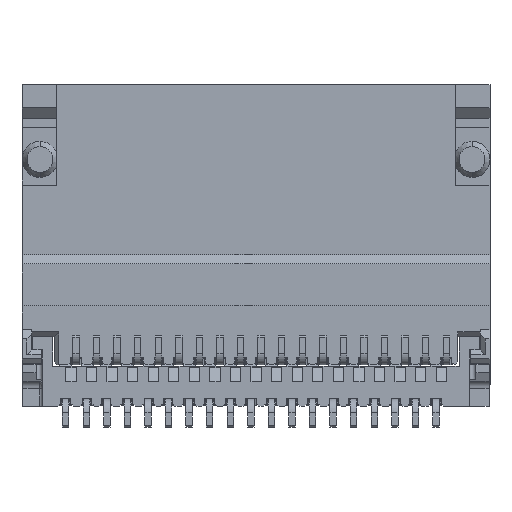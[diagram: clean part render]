
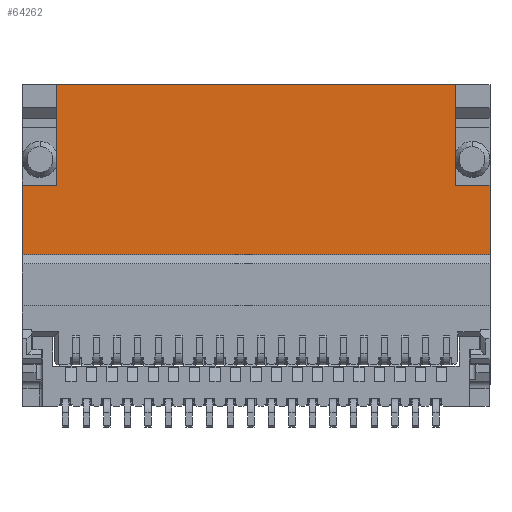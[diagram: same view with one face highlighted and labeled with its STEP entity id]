
A CAD part, front view. The second image highlights one B-rep face of the part: STEP entity #64262.
In plain terms, the highlighted planar face has unit normal (0, -1, 0).
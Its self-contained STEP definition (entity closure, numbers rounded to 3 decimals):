
#159 = LINE ( 'NONE', #88603, #73527 ) ;
#380 = EDGE_CURVE ( 'NONE', #93061, #28894, #93279, .T. ) ;
#892 = VECTOR ( 'NONE', #21342, 1000. ) ;
#3208 = LINE ( 'NONE', #94335, #892 ) ;
#3332 = DIRECTION ( 'NONE',  ( 0., 0., 1. ) ) ;
#5532 = EDGE_CURVE ( 'NONE', #40291, #90297, #159, .T. ) ;
#6928 = AXIS2_PLACEMENT_3D ( 'NONE', #38534, #89704, #45903 ) ;
#9494 = CARTESIAN_POINT ( 'NONE',  ( 7.765, 1.65, 0. ) ) ;
#11397 = CARTESIAN_POINT ( 'NONE',  ( -9.1, 1.65, -4.96 ) ) ;
#12253 = DIRECTION ( 'NONE',  ( 0., 0., 1. ) ) ;
#12257 = VERTEX_POINT ( 'NONE', #50328 ) ;
#15133 = CARTESIAN_POINT ( 'NONE',  ( -9.1, 1.65, -3.9 ) ) ;
#16309 = LINE ( 'NONE', #11397, #53013 ) ;
#16367 = PLANE ( 'NONE',  #6928 ) ;
#18164 = ORIENTED_EDGE ( 'NONE', *, *, #72967, .F. ) ;
#18720 = DIRECTION ( 'NONE',  ( 0., 0., 1. ) ) ;
#21342 = DIRECTION ( 'NONE',  ( 1., 0., 0. ) ) ;
#23847 = ORIENTED_EDGE ( 'NONE', *, *, #5532, .T. ) ;
#24611 = CARTESIAN_POINT ( 'NONE',  ( -9.1, 1.65, -6.6 ) ) ;
#26830 = VECTOR ( 'NONE', #58442, 1000. ) ;
#27118 = ORIENTED_EDGE ( 'NONE', *, *, #45434, .F. ) ;
#27983 = ORIENTED_EDGE ( 'NONE', *, *, #62460, .T. ) ;
#28894 = VERTEX_POINT ( 'NONE', #42839 ) ;
#31456 = LINE ( 'NONE', #44060, #26830 ) ;
#34907 = VECTOR ( 'NONE', #3332, 1000. ) ;
#35256 = EDGE_CURVE ( 'NONE', #53262, #42693, #16309, .T. ) ;
#35973 = LINE ( 'NONE', #70882, #92085 ) ;
#38503 = CARTESIAN_POINT ( 'NONE',  ( -7.765, 1.65, -3.9 ) ) ;
#38534 = CARTESIAN_POINT ( 'NONE',  ( -9.1, 1.65, -4.96 ) ) ;
#39339 = ORIENTED_EDGE ( 'NONE', *, *, #380, .T. ) ;
#40291 = VERTEX_POINT ( 'NONE', #9494 ) ;
#42693 = VERTEX_POINT ( 'NONE', #15133 ) ;
#42839 = CARTESIAN_POINT ( 'NONE',  ( 9.1, 1.65, -3.9 ) ) ;
#42994 = CARTESIAN_POINT ( 'NONE',  ( -9.1, 1.65, -6.6 ) ) ;
#43420 = EDGE_CURVE ( 'NONE', #53262, #93061, #76244, .T. ) ;
#44060 = CARTESIAN_POINT ( 'NONE',  ( -9.1, 1.65, -3.9 ) ) ;
#45434 = EDGE_CURVE ( 'NONE', #42693, #93392, #31456, .T. ) ;
#45782 = EDGE_CURVE ( 'NONE', #93392, #90297, #35973, .T. ) ;
#45903 = DIRECTION ( 'NONE',  ( 1., 0., 0. ) ) ;
#46770 = DIRECTION ( 'NONE',  ( 1., 0., 0. ) ) ;
#50328 = CARTESIAN_POINT ( 'NONE',  ( 7.765, 1.65, -3.9 ) ) ;
#50997 = DIRECTION ( 'NONE',  ( 0., 0., 1. ) ) ;
#53013 = VECTOR ( 'NONE', #18720, 1000. ) ;
#53262 = VERTEX_POINT ( 'NONE', #42994 ) ;
#58442 = DIRECTION ( 'NONE',  ( 1., 0., 0. ) ) ;
#59439 = DIRECTION ( 'NONE',  ( -1., 0., 0. ) ) ;
#61612 = CARTESIAN_POINT ( 'NONE',  ( 9.1, 1.65, -4.96 ) ) ;
#62234 = ORIENTED_EDGE ( 'NONE', *, *, #35256, .F. ) ;
#62460 = EDGE_CURVE ( 'NONE', #12257, #40291, #85286, .T. ) ;
#64262 = ADVANCED_FACE ( 'NONE', ( #82688 ), #16367, .F. ) ;
#68203 = ORIENTED_EDGE ( 'NONE', *, *, #43420, .T. ) ;
#70882 = CARTESIAN_POINT ( 'NONE',  ( -7.765, 1.65, -11.641 ) ) ;
#72967 = EDGE_CURVE ( 'NONE', #12257, #28894, #3208, .T. ) ;
#73527 = VECTOR ( 'NONE', #59439, 1000. ) ;
#76244 = LINE ( 'NONE', #24611, #93349 ) ;
#81843 = EDGE_LOOP ( 'NONE', ( #39339, #18164, #27983, #23847, #82065, #27118, #62234, #68203 ) ) ;
#82065 = ORIENTED_EDGE ( 'NONE', *, *, #45782, .F. ) ;
#82688 = FACE_OUTER_BOUND ( 'NONE', #81843, .T. ) ;
#83016 = VECTOR ( 'NONE', #50997, 1000. ) ;
#83679 = CARTESIAN_POINT ( 'NONE',  ( -7.765, 1.65, 0. ) ) ;
#84950 = CARTESIAN_POINT ( 'NONE',  ( 9.1, 1.65, -6.6 ) ) ;
#85286 = LINE ( 'NONE', #87494, #83016 ) ;
#87494 = CARTESIAN_POINT ( 'NONE',  ( 7.765, 1.65, -11.641 ) ) ;
#88603 = CARTESIAN_POINT ( 'NONE',  ( -7.765, 1.65, 0. ) ) ;
#89704 = DIRECTION ( 'NONE',  ( 0., 1., 0. ) ) ;
#90297 = VERTEX_POINT ( 'NONE', #83679 ) ;
#92085 = VECTOR ( 'NONE', #12253, 1000. ) ;
#93061 = VERTEX_POINT ( 'NONE', #84950 ) ;
#93279 = LINE ( 'NONE', #61612, #34907 ) ;
#93349 = VECTOR ( 'NONE', #46770, 1000. ) ;
#93392 = VERTEX_POINT ( 'NONE', #38503 ) ;
#94335 = CARTESIAN_POINT ( 'NONE',  ( -9.1, 1.65, -3.9 ) ) ;
